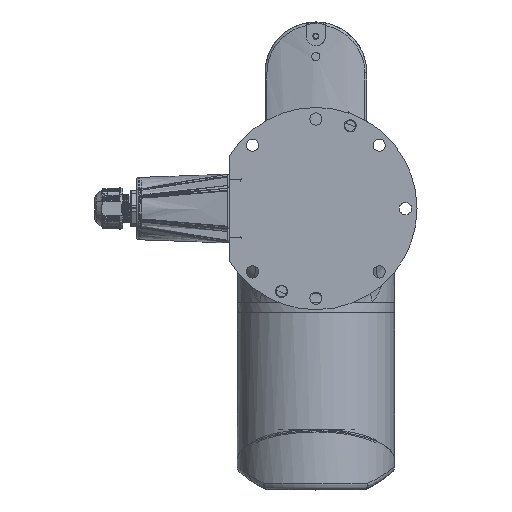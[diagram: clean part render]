
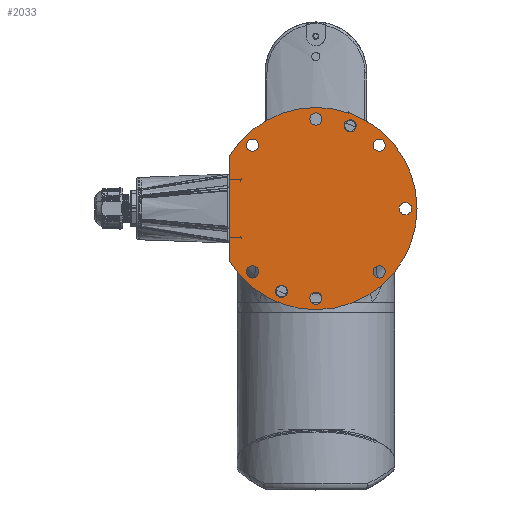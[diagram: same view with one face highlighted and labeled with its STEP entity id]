
A CAD part, left-side view. The second image highlights one B-rep face of the part: STEP entity #2033.
In plain terms, the highlighted planar face has unit normal (-1, 0, 0).
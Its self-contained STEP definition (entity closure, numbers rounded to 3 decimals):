
#1=DIRECTION('',(0.,0.,1.));
#2=VECTOR('',#1,76.269);
#3=CARTESIAN_POINT('',(0.,64.,-38.135));
#4=LINE('',#3,#2);
#5=CARTESIAN_POINT('',(0.,0.,0.));
#6=DIRECTION('',(1.,0.,0.));
#7=DIRECTION('',(0.,0.859,0.512));
#8=AXIS2_PLACEMENT_3D('',#5,#6,#7);
#10=CARTESIAN_POINT('',(0.,46.669,-46.669));
#11=DIRECTION('',(-1.,0.,0.));
#12=DIRECTION('',(0.,-1.,0.));
#13=AXIS2_PLACEMENT_3D('',#10,#11,#12);
#15=CARTESIAN_POINT('',(0.,46.669,-46.669));
#16=DIRECTION('',(-1.,0.,0.));
#17=DIRECTION('',(0.,1.,0.));
#18=AXIS2_PLACEMENT_3D('',#15,#16,#17);
#20=CARTESIAN_POINT('',(0.,46.669,46.669));
#21=DIRECTION('',(-1.,0.,0.));
#22=DIRECTION('',(0.,0.,-1.));
#23=AXIS2_PLACEMENT_3D('',#20,#21,#22);
#25=CARTESIAN_POINT('',(0.,46.669,46.669));
#26=DIRECTION('',(-1.,0.,0.));
#27=DIRECTION('',(0.,0.,1.));
#28=AXIS2_PLACEMENT_3D('',#25,#26,#27);
#30=CARTESIAN_POINT('',(0.,0.,66.));
#31=DIRECTION('',(-1.,0.,0.));
#32=DIRECTION('',(0.,0.707,-0.707));
#33=AXIS2_PLACEMENT_3D('',#30,#31,#32);
#35=CARTESIAN_POINT('',(0.,0.,66.));
#36=DIRECTION('',(-1.,0.,0.));
#37=DIRECTION('',(0.,-0.707,0.707));
#38=AXIS2_PLACEMENT_3D('',#35,#36,#37);
#40=CARTESIAN_POINT('',(0.,-46.669,46.669));
#41=DIRECTION('',(-1.,0.,0.));
#42=DIRECTION('',(0.,1.,0.));
#43=AXIS2_PLACEMENT_3D('',#40,#41,#42);
#45=CARTESIAN_POINT('',(0.,-46.669,46.669));
#46=DIRECTION('',(-1.,0.,0.));
#47=DIRECTION('',(0.,-1.,0.));
#48=AXIS2_PLACEMENT_3D('',#45,#46,#47);
#50=CARTESIAN_POINT('',(0.,-66.,0.));
#51=DIRECTION('',(-1.,0.,0.));
#52=DIRECTION('',(0.,0.707,0.707));
#53=AXIS2_PLACEMENT_3D('',#50,#51,#52);
#55=CARTESIAN_POINT('',(0.,-66.,0.));
#56=DIRECTION('',(-1.,0.,0.));
#57=DIRECTION('',(0.,-0.707,-0.707));
#58=AXIS2_PLACEMENT_3D('',#55,#56,#57);
#60=CARTESIAN_POINT('',(0.,-46.669,-46.669));
#61=DIRECTION('',(-1.,0.,0.));
#62=DIRECTION('',(0.,0.,1.));
#63=AXIS2_PLACEMENT_3D('',#60,#61,#62);
#65=CARTESIAN_POINT('',(0.,-46.669,-46.669));
#66=DIRECTION('',(-1.,0.,0.));
#67=DIRECTION('',(0.,0.,-1.));
#68=AXIS2_PLACEMENT_3D('',#65,#66,#67);
#70=CARTESIAN_POINT('',(0.,0.,-66.));
#71=DIRECTION('',(-1.,0.,0.));
#72=DIRECTION('',(0.,-0.707,0.707));
#73=AXIS2_PLACEMENT_3D('',#70,#71,#72);
#75=CARTESIAN_POINT('',(0.,0.,-66.));
#76=DIRECTION('',(-1.,0.,0.));
#77=DIRECTION('',(0.,0.707,-0.707));
#78=AXIS2_PLACEMENT_3D('',#75,#76,#77);
#80=CARTESIAN_POINT('',(0.,25.257,-60.976));
#81=DIRECTION('',(-1.,0.,0.));
#82=DIRECTION('',(0.,1.,0.));
#83=AXIS2_PLACEMENT_3D('',#80,#81,#82);
#85=CARTESIAN_POINT('',(0.,25.257,-60.976));
#86=DIRECTION('',(-1.,0.,0.));
#87=DIRECTION('',(0.,-1.,0.));
#88=AXIS2_PLACEMENT_3D('',#85,#86,#87);
#90=CARTESIAN_POINT('',(0.,-25.257,60.976));
#91=DIRECTION('',(-1.,0.,0.));
#92=DIRECTION('',(0.,1.,0.));
#93=AXIS2_PLACEMENT_3D('',#90,#91,#92);
#95=CARTESIAN_POINT('',(0.,-25.257,60.976));
#96=DIRECTION('',(-1.,0.,0.));
#97=DIRECTION('',(0.,-1.,0.));
#98=AXIS2_PLACEMENT_3D('',#95,#96,#97);
#1645=CARTESIAN_POINT('',(0.,64.,-38.135));
#1646=CARTESIAN_POINT('',(0.,64.,38.135));
#1647=VERTEX_POINT('',#1645);
#1648=VERTEX_POINT('',#1646);
#1649=CARTESIAN_POINT('',(0.,42.169,-46.669));
#1650=CARTESIAN_POINT('',(0.,51.169,-46.669));
#1651=VERTEX_POINT('',#1649);
#1652=VERTEX_POINT('',#1650);
#1653=CARTESIAN_POINT('',(0.,46.669,42.169));
#1654=CARTESIAN_POINT('',(0.,46.669,51.169));
#1655=VERTEX_POINT('',#1653);
#1656=VERTEX_POINT('',#1654);
#1657=CARTESIAN_POINT('',(0.,3.182,62.818));
#1658=CARTESIAN_POINT('',(0.,-3.182,69.182));
#1659=VERTEX_POINT('',#1657);
#1660=VERTEX_POINT('',#1658);
#1661=CARTESIAN_POINT('',(0.,-42.169,46.669));
#1662=CARTESIAN_POINT('',(0.,-51.169,46.669));
#1663=VERTEX_POINT('',#1661);
#1664=VERTEX_POINT('',#1662);
#1665=CARTESIAN_POINT('',(0.,-62.818,3.182));
#1666=CARTESIAN_POINT('',(0.,-69.182,-3.182));
#1667=VERTEX_POINT('',#1665);
#1668=VERTEX_POINT('',#1666);
#1669=CARTESIAN_POINT('',(0.,-46.669,-42.169));
#1670=CARTESIAN_POINT('',(0.,-46.669,-51.169));
#1671=VERTEX_POINT('',#1669);
#1672=VERTEX_POINT('',#1670);
#1673=CARTESIAN_POINT('',(0.,-3.182,-62.818));
#1674=CARTESIAN_POINT('',(0.,3.182,-69.182));
#1675=VERTEX_POINT('',#1673);
#1676=VERTEX_POINT('',#1674);
#1877=CARTESIAN_POINT('',(0.,29.757,
-60.976));
#1879=VERTEX_POINT('',#1877);
#1884=CARTESIAN_POINT('',(0.,20.757,
-60.976));
#1885=VERTEX_POINT('',#1884);
#1893=CARTESIAN_POINT('',(0.,-20.757,
60.976));
#1895=VERTEX_POINT('',#1893);
#1900=CARTESIAN_POINT('',(0.,-29.757,
60.976));
#1901=VERTEX_POINT('',#1900);
#1968=CARTESIAN_POINT('',(0.,0.,0.));
#1969=DIRECTION('',(1.,0.,0.));
#1970=DIRECTION('',(0.,-1.,0.));
#1971=AXIS2_PLACEMENT_3D('',#1968,#1969,#1970);
#1972=PLANE('',#1971);
#1974=ORIENTED_EDGE('',*,*,#1973,.T.);
#1976=ORIENTED_EDGE('',*,*,#1975,.T.);
#1977=EDGE_LOOP('',(#1974,#1976));
#1978=FACE_OUTER_BOUND('',#1977,.F.);
#1980=ORIENTED_EDGE('',*,*,#1979,.T.);
#1982=ORIENTED_EDGE('',*,*,#1981,.T.);
#1983=EDGE_LOOP('',(#1980,#1982));
#1984=FACE_BOUND('',#1983,.F.);
#1986=ORIENTED_EDGE('',*,*,#1985,.T.);
#1988=ORIENTED_EDGE('',*,*,#1987,.T.);
#1989=EDGE_LOOP('',(#1986,#1988));
#1990=FACE_BOUND('',#1989,.F.);
#1992=ORIENTED_EDGE('',*,*,#1991,.T.);
#1994=ORIENTED_EDGE('',*,*,#1993,.T.);
#1995=EDGE_LOOP('',(#1992,#1994));
#1996=FACE_BOUND('',#1995,.F.);
#1998=ORIENTED_EDGE('',*,*,#1997,.T.);
#2000=ORIENTED_EDGE('',*,*,#1999,.T.);
#2001=EDGE_LOOP('',(#1998,#2000));
#2002=FACE_BOUND('',#2001,.F.);
#2004=ORIENTED_EDGE('',*,*,#2003,.T.);
#2006=ORIENTED_EDGE('',*,*,#2005,.T.);
#2007=EDGE_LOOP('',(#2004,#2006));
#2008=FACE_BOUND('',#2007,.F.);
#2010=ORIENTED_EDGE('',*,*,#2009,.T.);
#2012=ORIENTED_EDGE('',*,*,#2011,.T.);
#2013=EDGE_LOOP('',(#2010,#2012));
#2014=FACE_BOUND('',#2013,.F.);
#2016=ORIENTED_EDGE('',*,*,#2015,.T.);
#2018=ORIENTED_EDGE('',*,*,#2017,.T.);
#2019=EDGE_LOOP('',(#2016,#2018));
#2020=FACE_BOUND('',#2019,.F.);
#2022=ORIENTED_EDGE('',*,*,#2021,.T.);
#2024=ORIENTED_EDGE('',*,*,#2023,.T.);
#2025=EDGE_LOOP('',(#2022,#2024));
#2026=FACE_BOUND('',#2025,.F.);
#2028=ORIENTED_EDGE('',*,*,#2027,.T.);
#2030=ORIENTED_EDGE('',*,*,#2029,.T.);
#2031=EDGE_LOOP('',(#2028,#2030));
#2032=FACE_BOUND('',#2031,.F.);
#2033=ADVANCED_FACE('',(#1978,#1984,#1990,#1996,#2002,#2008,#2014,#2020,#2026,
#2032),#1972,.F.);
#9=CIRCLE('',#8,74.5);
#14=CIRCLE('',#13,4.5);
#19=CIRCLE('',#18,4.5);
#24=CIRCLE('',#23,4.5);
#29=CIRCLE('',#28,4.5);
#34=CIRCLE('',#33,4.5);
#39=CIRCLE('',#38,4.5);
#44=CIRCLE('',#43,4.5);
#49=CIRCLE('',#48,4.5);
#54=CIRCLE('',#53,4.5);
#59=CIRCLE('',#58,4.5);
#64=CIRCLE('',#63,4.5);
#69=CIRCLE('',#68,4.5);
#74=CIRCLE('',#73,4.5);
#79=CIRCLE('',#78,4.5);
#84=CIRCLE('',#83,4.5);
#89=CIRCLE('',#88,4.5);
#94=CIRCLE('',#93,4.5);
#99=CIRCLE('',#98,4.5);
#1973=EDGE_CURVE('',#1647,#1648,#4,.T.);
#1975=EDGE_CURVE('',#1648,#1647,#9,.T.);
#1979=EDGE_CURVE('',#1651,#1652,#14,.T.);
#1981=EDGE_CURVE('',#1652,#1651,#19,.T.);
#1985=EDGE_CURVE('',#1655,#1656,#24,.T.);
#1987=EDGE_CURVE('',#1656,#1655,#29,.T.);
#1991=EDGE_CURVE('',#1659,#1660,#34,.T.);
#1993=EDGE_CURVE('',#1660,#1659,#39,.T.);
#1997=EDGE_CURVE('',#1663,#1664,#44,.T.);
#1999=EDGE_CURVE('',#1664,#1663,#49,.T.);
#2003=EDGE_CURVE('',#1667,#1668,#54,.T.);
#2005=EDGE_CURVE('',#1668,#1667,#59,.T.);
#2009=EDGE_CURVE('',#1671,#1672,#64,.T.);
#2011=EDGE_CURVE('',#1672,#1671,#69,.T.);
#2015=EDGE_CURVE('',#1675,#1676,#74,.T.);
#2017=EDGE_CURVE('',#1676,#1675,#79,.T.);
#2021=EDGE_CURVE('',#1879,#1885,#84,.T.);
#2023=EDGE_CURVE('',#1885,#1879,#89,.T.);
#2027=EDGE_CURVE('',#1895,#1901,#94,.T.);
#2029=EDGE_CURVE('',#1901,#1895,#99,.T.);
